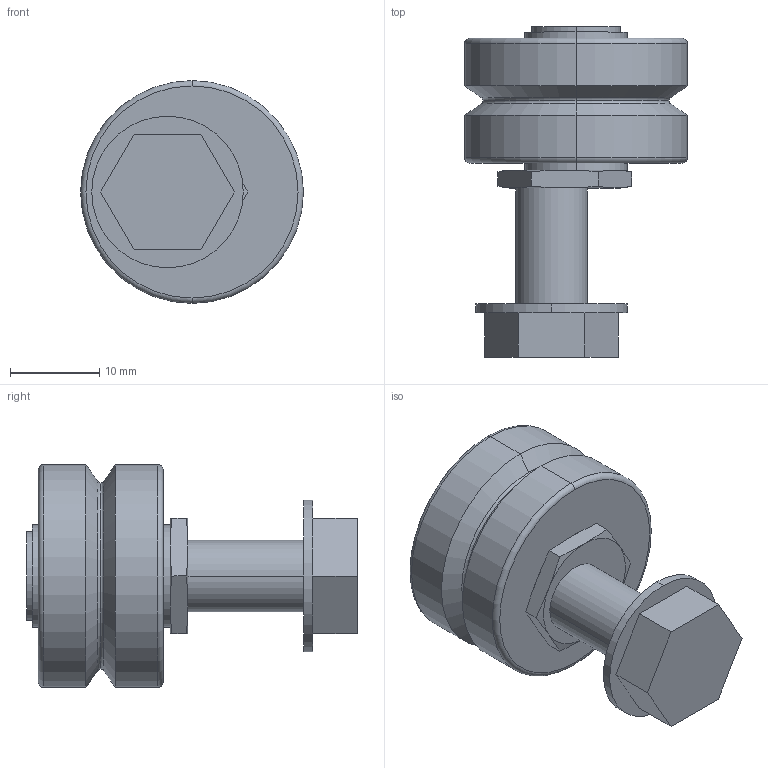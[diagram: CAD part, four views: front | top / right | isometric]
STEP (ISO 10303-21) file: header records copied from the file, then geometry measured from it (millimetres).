
FILE_DESCRIPTION(('STEP AP203'),'1');
FILE_NAME('rlfj_25_de_ns.stp','2020-09-28T14:28:13',('TraceParts'),('TraceParts S.A.'),'Spatial InterOp 3D',' ',' ');
FILE_SCHEMA(('CONFIG_CONTROL_DESIGN'));
Length unit declared in the file: millimetre
Products named in the file (1): 1
Bounding box: 25 x 37.1 x 25 mm (x, y, z)
Volume: 8660 mm3; surface area: 5448.5 mm2
Topology: 3 solids, 4 shells, 74 faces, 158 edges, 95 vertices
Faces by surface type: plane 30, cylinder 18, cone 18, torus 8
Entity records: 2052 total; most frequent: CARTESIAN_POINT 400, DIRECTION 352, ORIENTED_EDGE 312, EDGE_CURVE 156, AXIS2_PLACEMENT_3D 143, VERTEX_POINT 95, EDGE_LOOP 83, ADVANCED_FACE 74
